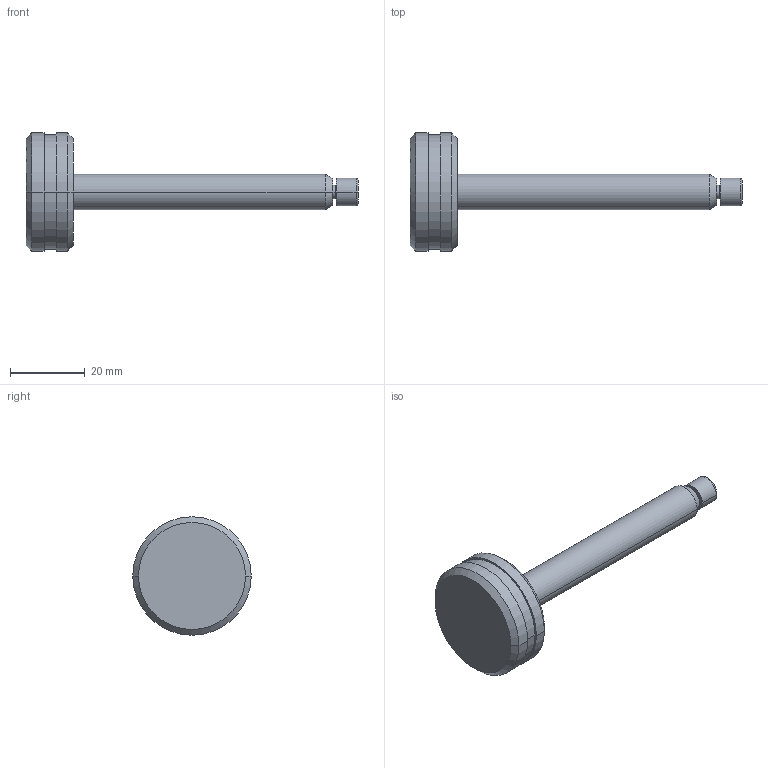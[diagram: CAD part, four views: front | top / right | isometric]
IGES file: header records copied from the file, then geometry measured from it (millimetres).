
Start section:  PTC IGES file: sch343-part.igs
Global section: file name: sch343-part.igs; native system: Pro/ENGINEER by Parametric Technology Corporation; preprocessor: 2002350; author: chant; organization: Unknown; date: 070529.163430; units: inch
Bounding box: 89 x 31.75 x 31.75 mm (x, y, z)
Surface area: 5116.8 mm2 (no closed solid volume)
Topology: 0 solids, 0 shells, 33 faces, 172 edges, 194 vertices
Faces by surface type: revolution 26, bspline 7
